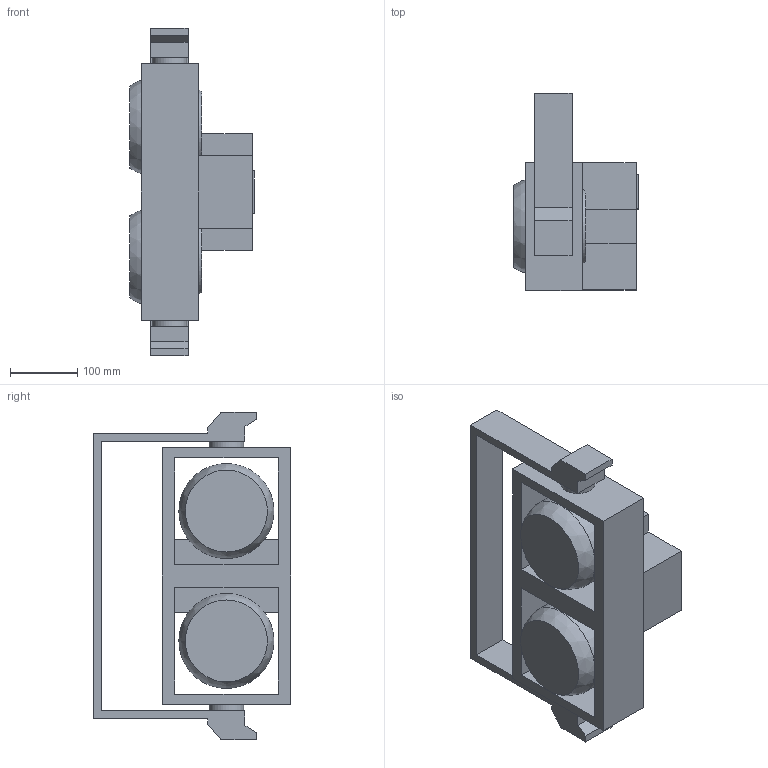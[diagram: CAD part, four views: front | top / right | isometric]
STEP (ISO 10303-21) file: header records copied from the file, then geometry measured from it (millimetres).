
FILE_DESCRIPTION(/* description */ (''),/* implementation_level */ '2;1');
FILE_NAME(/* name */ 'Strike Array 2C_0.stp',/* time_stamp */ '2024-02-20T15:15:25-05:00',/* author */ ('chenry'),/* organization */ (''),/* preprocessor_version */ 'ST-DEVELOPER v20',/* originating_system */ 'Autodesk Inventor 2024',/* authorisation */ '');
FILE_SCHEMA (('AUTOMOTIVE_DESIGN { 1 0 10303 214 3 1 1 }'));
Length unit declared in the file: millimetre
Products named in the file (3): Strike Array 2C_0; body; Arm
Assembly tree (2 placements, depth 2):
  Strike Array 2C_0
    body
    Arm
Bounding box: 185.12 x 292 x 485.98 mm (x, y, z)
Volume: 7695395.7 mm3; surface area: 598769.6 mm2
Topology: 2 solids, 2 shells, 72 faces, 184 edges, 120 vertices
Faces by surface type: plane 62, cylinder 6, bspline 4
Full cylindrical faces by diameter (mm): 51.026 x4, 140.958 x2
Entity records: 2381 total; most frequent: CARTESIAN_POINT 505, ORIENTED_EDGE 368, DIRECTION 350, EDGE_CURVE 184, LINE 156, VECTOR 156, VERTEX_POINT 120, AXIS2_PLACEMENT_3D 97
